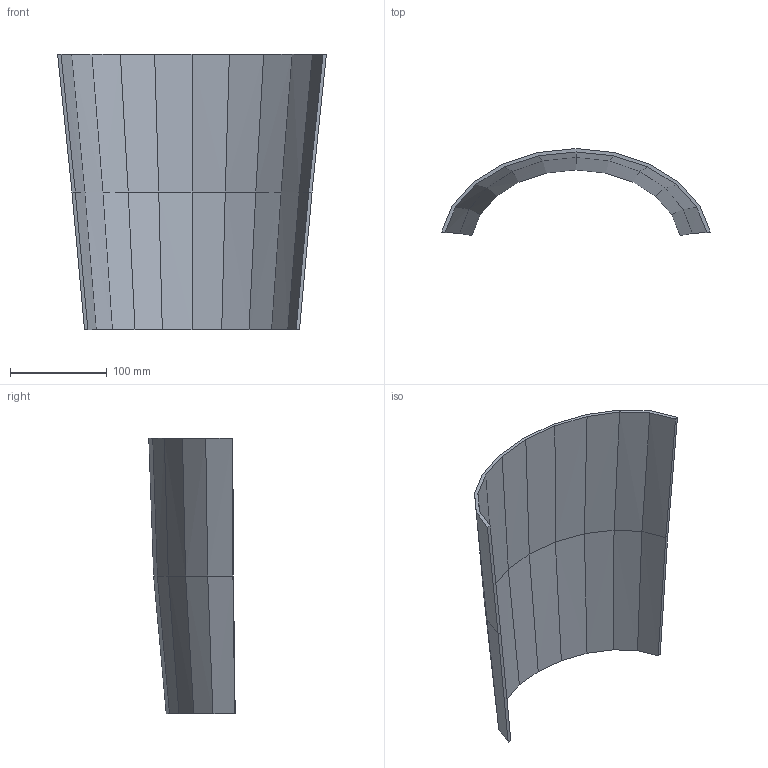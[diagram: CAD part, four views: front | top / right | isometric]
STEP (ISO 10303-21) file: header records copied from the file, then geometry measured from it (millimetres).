
FILE_DESCRIPTION(('Open CASCADE Model'),'2;1');
FILE_NAME('Open CASCADE Shape Model','2026-09-19T23:46:40',('Author'),( 'Open CASCADE'),'Open CASCADE STEP processor 7.9','Open CASCADE 7.9' ,'Unknown');
FILE_SCHEMA(('AUTOMOTIVE_DESIGN { 1 0 10303 214 1 1 1 1 }'));
Length unit declared in the file: millimetre
Products named in the file (1): Open CASCADE STEP translator 7.9 64
Bounding box: 277.28 x 89.07 x 284 mm (x, y, z)
Volume: 306148.2 mm3; surface area: 182513.5 mm2
Topology: 1 solids, 1 shells, 46 faces, 110 edges, 66 vertices
Faces by surface type: bspline 44, plane 2
Entity records: 2634 total; most frequent: CARTESIAN_POINT 659, DIRECTION 252, LINE 246, VECTOR 246, ORIENTED_EDGE 220, PCURVE 220, DEFINITIONAL_REPRESENTATION 220, EDGE_CURVE 110
